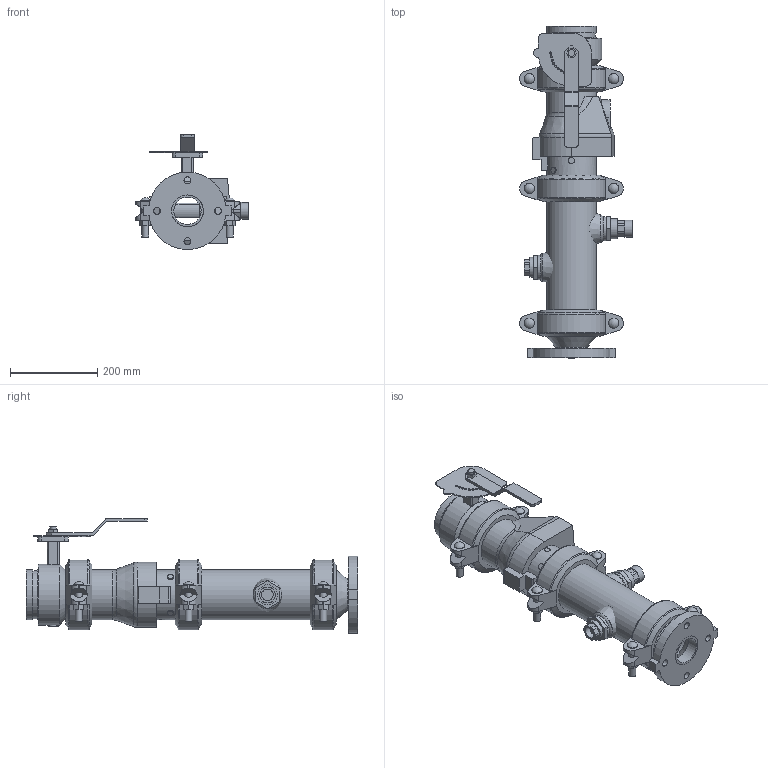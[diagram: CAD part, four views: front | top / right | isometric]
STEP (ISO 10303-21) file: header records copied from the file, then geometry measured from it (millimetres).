
FILE_DESCRIPTION(/* description */ ('VIC DVI PUMP DROP VERT S/380 (OGSxFLG) (S/924-0.75)','CAx-IF Rec.Pracs.---Representation and Presentation of Product Manufacturing Information (PMI)---4.0---2014-10-13'),/* implementation_level */ '2;1');
FILE_NAME(/* name */ 'C:\Users\Public\Documents\Victaulic.Temp\A765\Victaulic_IPS_Vertical DVI_CL 150_Series 380 (OGSxFLG)_924 (0.75)_04.0x02.5 (100x65).stp',/* time_stamp */ '2022-07-25T11:10:37+02:00',/* author */ ('Vjadhav'),/* organization */ ('Victaulic'),/* preprocessor_version */ 'ST-DEVELOPER v18',/* originating_system */ 'Autodesk Inventor 2020',/* authorisation */ '');
FILE_SCHEMA (('AP242_MANAGED_MODEL_BASED_3D_ENGINEERING_MIM_LF { 1 0 10303 442 1 1 4 }'));
Length unit declared in the file: inch
Products named in the file (9): 380_924 (0.75)-04.0x02.5; 741-02.5; 050-04.0x02.5; Pipe-04.0; 177N-04.0; 761-04.0; 779-04.0; 923-04.0x0.75; 924-04.0x0.75
Assembly tree (10 placements, depth 2):
  380_924 (0.75)-04.0x02.5
    741-02.5
    050-04.0x02.5
    177N-04.0  x3
    Pipe-04.0
    761-04.0
    779-04.0
    923-04.0x0.75
    924-04.0x0.75
Bounding box: 258.01 x 762 x 263.59 mm (x, y, z)
Volume: 6036419.8 mm3; surface area: 1057524.8 mm2
Topology: 10 solids, 11 shells, 589 faces, 1537 edges, 1025 vertices
Faces by surface type: plane 345, cylinder 198, cone 20, torus 18, sphere 6, bspline 2
Full cylindrical faces by diameter (mm): 4.826 x10, 8.636 x4, 13.716 x2, 14.986 x2, 15.875 x10, 22.86 x1, 23.495 x6, 26.67 x2, 38.608 x1, 45.974 x4, 55.118 x1, 55.626 x2, 62.713 x1, 69.088 x1, 73.025 x3, 101.6 x3, 102.26 x4, 110.084 x7, 114.3 x19, 139.7 x1
Entity records: 13977 total; most frequent: CARTESIAN_POINT 2763, DIRECTION 2310, ORIENTED_EDGE 2102, EDGE_CURVE 1051, AXIS2_PLACEMENT_3D 876, VERTEX_POINT 705, LINE 558, VECTOR 558
